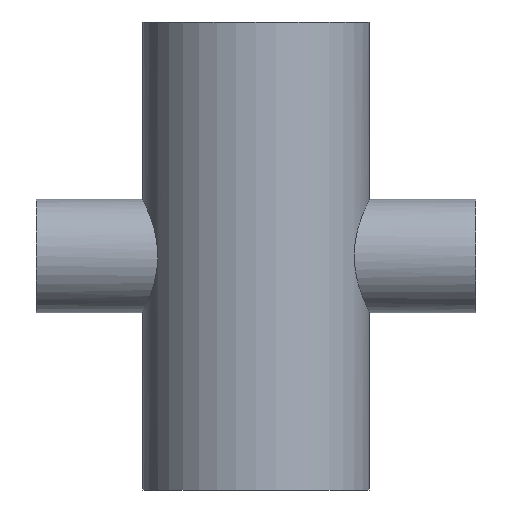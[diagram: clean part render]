
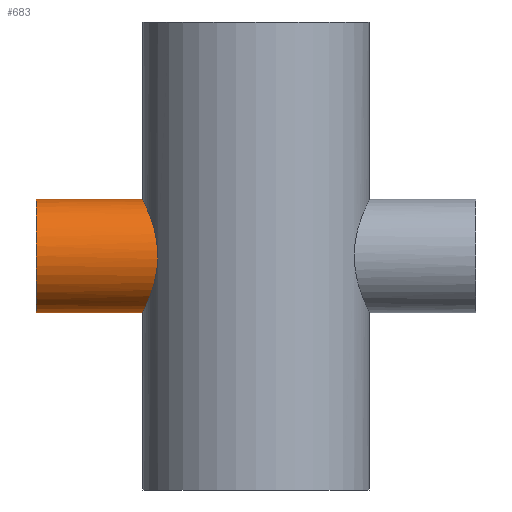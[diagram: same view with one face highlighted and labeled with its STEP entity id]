
A CAD part, front view. The second image highlights one B-rep face of the part: STEP entity #683.
In plain terms, the highlighted cylindrical face has radius 25.4 mm (diameter 50.8 mm), a partial arc.
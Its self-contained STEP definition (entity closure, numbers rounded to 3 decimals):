
#8 = VERTEX_POINT ( 'NONE', #279 ) ;
#45 = CARTESIAN_POINT ( 'NONE',  ( -44.184, -25.068, -4.178 ) ) ;
#58 = CARTESIAN_POINT ( 'NONE',  ( -98.425, 0., -25.4 ) ) ;
#66 = FACE_OUTER_BOUND ( 'NONE', #803, .T. ) ;
#80 = CARTESIAN_POINT ( 'NONE',  ( -47.946, -16.833, -19.091 ) ) ;
#89 = CARTESIAN_POINT ( 'NONE',  ( -47.073, -19.107, -16.756 ) ) ;
#113 = DIRECTION ( 'NONE',  ( 0., 0., -1. ) ) ;
#120 = B_SPLINE_CURVE_WITH_KNOTS ( 'NONE', 3,
 ( #377, #559, #657, #652, #647, #728, #717, #740, #733, #1046, #821, #885, #825, #964, #899, #973, #970, #453, #390, #461, #543, #482, #398, #395, #382, #372, #310, #304, #300, #288, #283, #231, #224, #209, #156, #154, #152, #130, #45, #977, #852, #776, #496, #493, #431, #457, #380, #188, #212, #334, #190, #89, #1053, #80, #1045, #1040, #1024, #1020, #1015, #1007, #1001, #998, #969, #963, #958, #941, #939, #936, #931, #925 ),
 .UNSPECIFIED., .F., .F.,
 ( 4, 2, 2, 2, 2, 2, 2, 2, 2, 2, 2, 2, 2, 2, 2, 2, 2, 2, 2, 2, 2, 2, 2, 2, 2, 2, 2, 2, 2, 2, 2, 2, 2, 2, 4 ),
 ( 0., 0.005, 0.008, 0.009, 0.01, 0.015, 0.016, 0.018, 0.02, 0.023, 0.024, 0.025, 0.03, 0.033, 0.034, 0.035, 0.04, 0.042, 0.043, 0.045, 0.048, 0.049, 0.05, 0.056, 0.057, 0.058, 0.061, 0.066, 0.067, 0.068, 0.071, 0.073, 0.074, 0.076, 0.081 ),
 .UNSPECIFIED. ) ;
#130 = CARTESIAN_POINT ( 'NONE',  ( -44.113, -25.193, -3.345 ) ) ;
#143 = AXIS2_PLACEMENT_3D ( 'NONE', #708, #737, #113 ) ;
#152 = CARTESIAN_POINT ( 'NONE',  ( -44.041, -25.318, -2.078 ) ) ;
#154 = CARTESIAN_POINT ( 'NONE',  ( -44.023, -25.35, -1.651 ) ) ;
#156 = CARTESIAN_POINT ( 'NONE',  ( -43.999, -25.391, -0.801 ) ) ;
#162 = VERTEX_POINT ( 'NONE', #975 ) ;
#188 = CARTESIAN_POINT ( 'NONE',  ( -46.315, -20.871, -14.482 ) ) ;
#189 = DIRECTION ( 'NONE',  ( 1., 0., 0. ) ) ;
#190 = CARTESIAN_POINT ( 'NONE',  ( -46.746, -19.889, -15.804 ) ) ;
#209 = CARTESIAN_POINT ( 'NONE',  ( -43.994, -25.401, -0.377 ) ) ;
#212 = CARTESIAN_POINT ( 'NONE',  ( -46.421, -20.634, -14.817 ) ) ;
#224 = CARTESIAN_POINT ( 'NONE',  ( -43.996, -25.397, 1.735 ) ) ;
#231 = CARTESIAN_POINT ( 'NONE',  ( -44.095, -25.227, 3.401 ) ) ;
#240 = EDGE_CURVE ( 'NONE', #619, #162, #381, .T. ) ;
#263 = ORIENTED_EDGE ( 'NONE', *, *, #325, .F. ) ;
#279 = CARTESIAN_POINT ( 'NONE',  ( -98.425, 0., 25.4 ) ) ;
#283 = CARTESIAN_POINT ( 'NONE',  ( -44.329, -24.811, 5.456 ) ) ;
#288 = CARTESIAN_POINT ( 'NONE',  ( -44.382, -24.717, 5.866 ) ) ;
#300 = CARTESIAN_POINT ( 'NONE',  ( -44.497, -24.509, 6.682 ) ) ;
#304 = CARTESIAN_POINT ( 'NONE',  ( -44.56, -24.394, 7.09 ) ) ;
#310 = CARTESIAN_POINT ( 'NONE',  ( -44.762, -24.023, 8.293 ) ) ;
#325 = EDGE_CURVE ( 'NONE', #545, #162, #120, .T. ) ;
#326 = DIRECTION ( 'NONE',  ( 1., 0., 0. ) ) ;
#334 = CARTESIAN_POINT ( 'NONE',  ( -46.637, -20.143, -15.479 ) ) ;
#336 = CARTESIAN_POINT ( 'NONE',  ( -98.425, 0., 25.4 ) ) ;
#372 = CARTESIAN_POINT ( 'NONE',  ( -44.914, -23.739, 9.073 ) ) ;
#377 = CARTESIAN_POINT ( 'NONE',  ( -50.8, 0., 25.4 ) ) ;
#380 = CARTESIAN_POINT ( 'NONE',  ( -45.793, -22.014, -12.777 ) ) ;
#381 = LINE ( 'NONE', #58, #446 ) ;
#382 = CARTESIAN_POINT ( 'NONE',  ( -45.411, -22.781, 11.353 ) ) ;
#390 = CARTESIAN_POINT ( 'NONE',  ( -47.078, -19.096, 16.768 ) ) ;
#391 = CYLINDRICAL_SURFACE ( 'NONE', #143, 25.4 ) ;
#395 = CARTESIAN_POINT ( 'NONE',  ( -45.798, -22.005, 12.793 ) ) ;
#398 = CARTESIAN_POINT ( 'NONE',  ( -46.321, -20.859, 14.5 ) ) ;
#431 = CARTESIAN_POINT ( 'NONE',  ( -44.987, -23.597, -9.408 ) ) ;
#446 = VECTOR ( 'NONE', #189, 1000. ) ;
#453 = CARTESIAN_POINT ( 'NONE',  ( -47.296, -18.549, 17.371 ) ) ;
#457 = CARTESIAN_POINT ( 'NONE',  ( -45.405, -22.794, -11.33 ) ) ;
#461 = CARTESIAN_POINT ( 'NONE',  ( -46.751, -19.876, 15.821 ) ) ;
#482 = CARTESIAN_POINT ( 'NONE',  ( -46.428, -20.62, 14.837 ) ) ;
#493 = CARTESIAN_POINT ( 'NONE',  ( -44.907, -23.749, -9.017 ) ) ;
#496 = CARTESIAN_POINT ( 'NONE',  ( -44.755, -24.034, -8.228 ) ) ;
#529 = AXIS2_PLACEMENT_3D ( 'NONE', #1035, #1032, #997 ) ;
#535 = EDGE_CURVE ( 'NONE', #8, #619, #700, .T. ) ;
#543 = CARTESIAN_POINT ( 'NONE',  ( -46.643, -20.128, 15.498 ) ) ;
#545 = VERTEX_POINT ( 'NONE', #1047 ) ;
#559 = CARTESIAN_POINT ( 'NONE',  ( -50.8, -1.708, 25.4 ) ) ;
#619 = VERTEX_POINT ( 'NONE', #823 ) ;
#647 = CARTESIAN_POINT ( 'NONE',  ( -50.368, -6.662, 24.525 ) ) ;
#652 = CARTESIAN_POINT ( 'NONE',  ( -50.469, -5.848, 24.732 ) ) ;
#657 = CARTESIAN_POINT ( 'NONE',  ( -50.714, -3.383, 25.229 ) ) ;
#683 = ADVANCED_FACE ( 'NONE', ( #66 ), #391, .T. ) ;
#700 = CIRCLE ( 'NONE', #529, 25.4 ) ;
#708 = CARTESIAN_POINT ( 'NONE',  ( -98.425, 0., 0. ) ) ;
#717 = CARTESIAN_POINT ( 'NONE',  ( -50.124, -8.271, 24.019 ) ) ;
#728 = CARTESIAN_POINT ( 'NONE',  ( -50.188, -7.87, 24.154 ) ) ;
#733 = CARTESIAN_POINT ( 'NONE',  ( -49.915, -9.447, 23.581 ) ) ;
#735 = EDGE_CURVE ( 'NONE', #8, #545, #946, .T. ) ;
#737 = DIRECTION ( 'NONE',  ( 1., 0., 0. ) ) ;
#740 = CARTESIAN_POINT ( 'NONE',  ( -49.987, -9.059, 23.733 ) ) ;
#776 = CARTESIAN_POINT ( 'NONE',  ( -44.684, -24.166, -7.831 ) ) ;
#803 = EDGE_LOOP ( 'NONE', ( #1030, #944, #875, #263 ) ) ;
#821 = CARTESIAN_POINT ( 'NONE',  ( -49.178, -12.813, 21.994 ) ) ;
#823 = CARTESIAN_POINT ( 'NONE',  ( -98.425, 0., -25.4 ) ) ;
#825 = CARTESIAN_POINT ( 'NONE',  ( -48.578, -14.864, 20.601 ) ) ;
#852 = CARTESIAN_POINT ( 'NONE',  ( -44.484, -24.533, -6.631 ) ) ;
#875 = ORIENTED_EDGE ( 'NONE', *, *, #240, .T. ) ;
#885 = CARTESIAN_POINT ( 'NONE',  ( -48.68, -14.525, 20.841 ) ) ;
#899 = CARTESIAN_POINT ( 'NONE',  ( -48.266, -15.848, 19.854 ) ) ;
#925 = CARTESIAN_POINT ( 'NONE',  ( -50.8, 0., -25.4 ) ) ;
#931 = CARTESIAN_POINT ( 'NONE',  ( -50.8, -1.71, -25.4 ) ) ;
#936 = CARTESIAN_POINT ( 'NONE',  ( -50.714, -3.396, -25.229 ) ) ;
#939 = CARTESIAN_POINT ( 'NONE',  ( -50.506, -5.473, -24.807 ) ) ;
#941 = CARTESIAN_POINT ( 'NONE',  ( -50.459, -5.888, -24.712 ) ) ;
#944 = ORIENTED_EDGE ( 'NONE', *, *, #535, .T. ) ;
#946 = LINE ( 'NONE', #336, #954 ) ;
#954 = VECTOR ( 'NONE', #326, 1000. ) ;
#958 = CARTESIAN_POINT ( 'NONE',  ( -50.357, -6.706, -24.502 ) ) ;
#963 = CARTESIAN_POINT ( 'NONE',  ( -50.301, -7.111, -24.388 ) ) ;
#964 = CARTESIAN_POINT ( 'NONE',  ( -48.371, -15.525, 20.107 ) ) ;
#969 = CARTESIAN_POINT ( 'NONE',  ( -50.122, -8.309, -24.017 ) ) ;
#970 = CARTESIAN_POINT ( 'NONE',  ( -47.732, -17.399, 18.523 ) ) ;
#973 = CARTESIAN_POINT ( 'NONE',  ( -47.948, -16.796, 19.072 ) ) ;
#975 = CARTESIAN_POINT ( 'NONE',  ( -50.8, 0., -25.4 ) ) ;
#977 = CARTESIAN_POINT ( 'NONE',  ( -44.37, -24.738, -5.821 ) ) ;
#997 = DIRECTION ( 'NONE',  ( 0., 0., -1. ) ) ;
#998 = CARTESIAN_POINT ( 'NONE',  ( -49.986, -9.089, -23.733 ) ) ;
#1001 = CARTESIAN_POINT ( 'NONE',  ( -49.685, -10.612, -23.092 ) ) ;
#1007 = CARTESIAN_POINT ( 'NONE',  ( -49.52, -11.355, -22.735 ) ) ;
#1015 = CARTESIAN_POINT ( 'NONE',  ( -49.254, -12.443, -22.147 ) ) ;
#1020 = CARTESIAN_POINT ( 'NONE',  ( -49.162, -12.801, -21.942 ) ) ;
#1024 = CARTESIAN_POINT ( 'NONE',  ( -48.972, -13.509, -21.514 ) ) ;
#1030 = ORIENTED_EDGE ( 'NONE', *, *, #735, .F. ) ;
#1032 = DIRECTION ( 'NONE',  ( 1., 0., 0. ) ) ;
#1035 = CARTESIAN_POINT ( 'NONE',  ( -98.425, 0., 0. ) ) ;
#1040 = CARTESIAN_POINT ( 'NONE',  ( -48.874, -13.859, -21.29 ) ) ;
#1045 = CARTESIAN_POINT ( 'NONE',  ( -48.374, -15.576, -20.132 ) ) ;
#1046 = CARTESIAN_POINT ( 'NONE',  ( -49.537, -11.364, 22.777 ) ) ;
#1047 = CARTESIAN_POINT ( 'NONE',  ( -50.8, 0., 25.4 ) ) ;
#1053 = CARTESIAN_POINT ( 'NONE',  ( -47.293, -18.558, -17.361 ) ) ;
